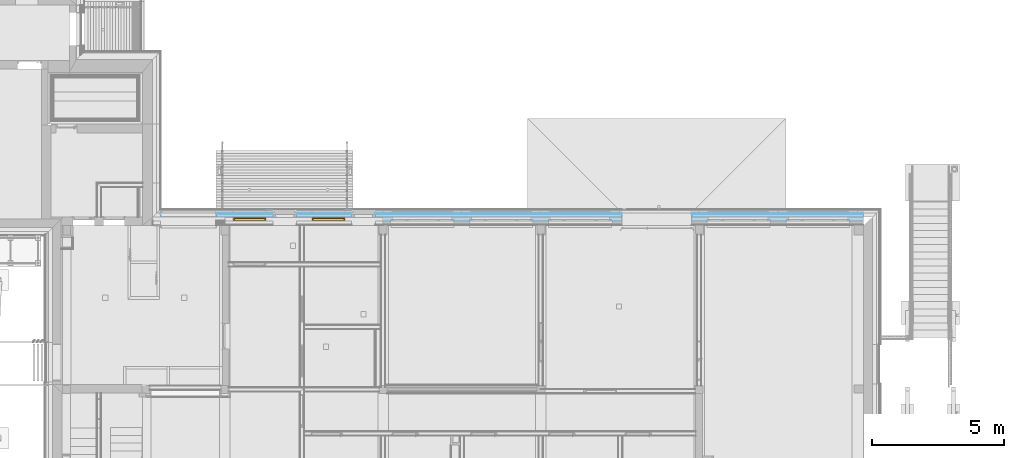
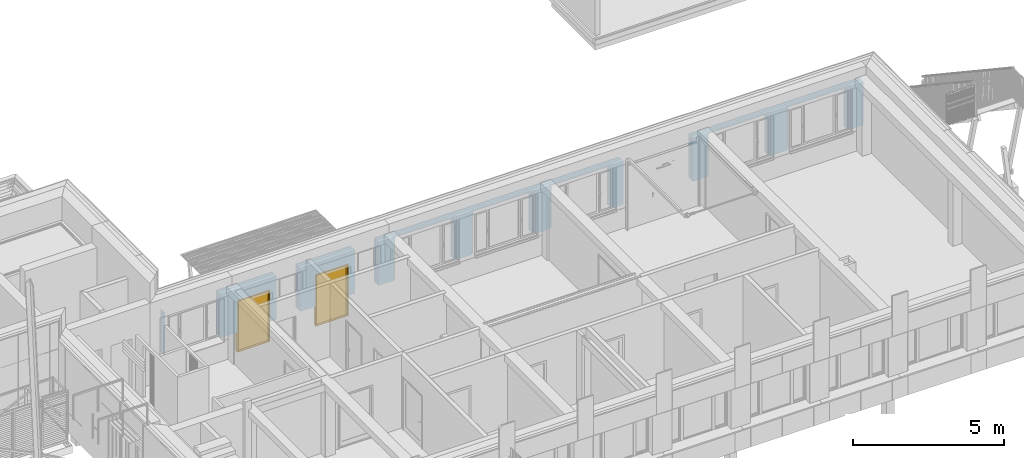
# One storey, part 46 of 418: 2 doors, 16 openings, 1 element without a shape of its own, plus 4 elements that do not belong to this part.
"""IFC2X3 building model written with IfcOpenShell, lengths in millimetres."""

from ifc_helpers import new_model, entity, si_unit, converted_unit, derived_unit, money_unit, direction, frame, origin_with_axes, origin_2d_with_axis, place, context, subcontext, project, spatial, polyline, rectangle, outline, extrude, faceted_brep, source, transform, mapped, material, type_object, element, fill, aggregate, save


model = new_model("IFC2X3")

# Units and contexts
model_context = context("Model", 3, precision=0.01, world=origin_with_axes(), true_north=direction((0.0, 1.0)))
body_context = subcontext(model_context, "Body", "Model", "MODEL_VIEW")
ifc_project = project(units=[si_unit("LENGTHUNIT", "METRE", prefix="MILLI"), si_unit("AREAUNIT", "SQUARE_METRE"), si_unit("VOLUMEUNIT", "CUBIC_METRE"), converted_unit("PLANEANGLEUNIT", "DEGREE", entity("IfcPlaneAngleMeasure", 0.0174532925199), si_unit("PLANEANGLEUNIT", "RADIAN"), dimensions=[0, 0, 0, 0, 0, 0, 0]), si_unit("SOLIDANGLEUNIT", "STERADIAN"), money_unit("EUR"), converted_unit("TIMEUNIT", "Year", entity("IfcTimeMeasure", 31556926.0), si_unit("TIMEUNIT", "SECOND"), dimensions=[0, 0, 1, 0, 0, 0, 0]), si_unit("MASSUNIT", "GRAM", prefix="KILO"), si_unit("THERMODYNAMICTEMPERATUREUNIT", "DEGREE_CELSIUS"), si_unit("LUMINOUSINTENSITYUNIT", "LUMEN"), si_unit("ENERGYUNIT", "JOULE", prefix="MEGA"), derived_unit("THERMALCONDUCTANCEUNIT", [(si_unit("POWERUNIT", "WATT"), 1), (si_unit("LENGTHUNIT", "METRE"), -1), (si_unit("THERMODYNAMICTEMPERATUREUNIT", "KELVIN"), -1)]), derived_unit("SPECIFICHEATCAPACITYUNIT", [(si_unit("ENERGYUNIT", "JOULE"), 1), (si_unit("MASSUNIT", "GRAM", prefix="KILO"), -1), (si_unit("THERMODYNAMICTEMPERATUREUNIT", "KELVIN"), -1)]), derived_unit("MASSDENSITYUNIT", [(si_unit("MASSUNIT", "GRAM", prefix="KILO"), 1), (si_unit("VOLUMEUNIT", "CUBIC_METRE"), -1)])], contexts=[model_context])

# Site, building, storey
site_placement = place(None, origin_with_axes())
site = spatial("IfcSite", under=ifc_project, at=site_placement, Name="Paldiski mnt 245/1, Tallinn, Harjumaa", CompositionType="COMPLEX")
building_placement = place(site_placement, origin_with_axes())
building = spatial("IfcBuilding", under=site, at=building_placement, Name="RKAS Hoone üldnimetus (kasutust iseloomustav) -> IFC Project Manager -> SOLIBRI", CompositionType="ELEMENT")
storey_placement = place(building_placement, origin_with_axes())
storey = spatial("IfcBuildingStorey", under=building, at=storey_placement, Name="Esimene korrus", CompositionType="ELEMENT", Elevation=0.0)

# Door
door_style = type_object("IfcDoorStyle", Name="Door 23", ConstructionType="NOTDEFINED", OperationType="SINGLE_SWING_LEFT", ParameterTakesPrecedence=False, Sizeable=False)
shared_shape = source(origin_with_axes(), body_context, "Body", "Brep", [
    faceted_brep([(-597.0, -40.0, 0.0), (-585.0, -40.0, 0.0), (-585.0, -40.0, 20.0), (-597.0, -40.0, 20.0), (597.0, -40.0, 0.0), (585.0, -40.0, 0.0), (585.0, -115.0, 0.0), (-585.0, -115.0, 0.0), (-585.0, -115.0, 20.0), (585.0, -115.0, 20.0), (585.0, -40.0, 20.0), (597.0, -40.0, 20.0)], [[[0, 1, 2, 3]], [[0, 4, 5, 6, 7, 1]], [[1, 7, 8, 2]], [[3, 2, 8, 9, 10, 11]], [[4, 0, 3, 11]], [[5, 4, 11, 10]], [[6, 5, 10, 9]], [[7, 6, 9, 8]]]),
    faceted_brep([(585.0, -40.0, 0.0), (585.0, -115.0, 0.0), (585.0, -115.0, 2060.0), (585.0, -40.0, 2060.0), (597.0, -40.0, 0.0), (597.0, 0.0, 0.0), (625.0, 0.0, 0.0), (625.0, -115.0, 0.0), (625.0, -115.0, 2060.0), (597.0, -40.0, 2060.0), (625.0, 0.0, 2060.0), (597.0, 0.0, 2060.0)], [[[0, 1, 2, 3]], [[4, 5, 6, 7, 1, 0]], [[1, 7, 8, 2]], [[9, 3, 2, 8, 10, 11]], [[9, 4, 0, 3]], [[11, 5, 4, 9]], [[11, 10, 6, 5]], [[6, 10, 8, 7]]]),
    faceted_brep([(-597.0, -40.0, 2060.0), (-597.0, 0.0, 2060.0), (-625.0, 0.0, 2060.0), (-625.0, -115.0, 2060.0), (-585.0, -115.0, 2060.0), (-585.0, -40.0, 2060.0), (-597.0, -40.0, 0.0), (-597.0, 0.0, 0.0), (-625.0, 0.0, 0.0), (-625.0, -115.0, 0.0), (-585.0, -115.0, 0.0), (-585.0, -40.0, 0.0)], [[[0, 1, 2, 3, 4, 5]], [[0, 6, 7, 1]], [[7, 8, 2, 1]], [[2, 8, 9, 3]], [[3, 9, 10, 4]], [[5, 4, 10, 11]], [[5, 11, 6, 0]], [[6, 11, 10, 9, 8, 7]]]),
    faceted_brep([(597.0, 0.0, 2072.0), (-597.0, 0.0, 2072.0), (-597.0, 0.0, 2060.0), (-625.0, 0.0, 2060.0), (-625.0, 0.0, 2100.0), (625.0, 0.0, 2100.0), (625.0, 0.0, 2060.0), (597.0, 0.0, 2060.0), (597.0, -40.0, 2072.0), (-597.0, -40.0, 2072.0), (-597.0, -40.0, 2060.0), (-585.0, -40.0, 2060.0), (-585.0, -115.0, 2060.0), (-625.0, -115.0, 2060.0), (-625.0, -115.0, 2100.0), (625.0, -115.0, 2100.0), (625.0, -115.0, 2060.0), (597.0, -40.0, 2060.0), (585.0, -115.0, 2060.0), (585.0, -40.0, 2060.0)], [[[0, 1, 2, 3, 4, 5, 6, 7]], [[0, 8, 9, 1]], [[1, 9, 10, 2]], [[10, 11, 12, 13, 3, 2]], [[4, 3, 13, 14]], [[5, 4, 14, 15]], [[6, 5, 15, 16]], [[17, 7, 6, 16, 18, 19]], [[7, 17, 8, 0]], [[10, 9, 8, 17, 19, 11]], [[19, 18, 12, 11]], [[12, 18, 16, 15, 14, 13]]]),
    faceted_brep([(-597.0, 0.0, 0.0), (597.0, 0.0, 0.0), (597.0, -40.0, 0.0), (-597.0, -40.0, 0.0), (-597.0, 0.0, 2072.0), (597.0, 0.0, 2072.0), (597.0, -40.0, 2072.0), (-597.0, -40.0, 2072.0)], [[[0, 1, 2, 3]], [[0, 4, 5, 1]], [[1, 5, 6, 2]], [[3, 2, 6, 7]], [[4, 0, 3, 7]], [[5, 4, 7, 6]]]),
])
wall_placement = place(storey_placement, frame((-17230.0, 70.0000000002, 810.0), z_axis=(0.0, 0.0, 1.0), x_axis=(-1.0, 0.0, 0.0)))
opening_14_placement = place(wall_placement, frame((23270.9798644, -5.44439493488e-10, -810.0), z_axis=(0.0, 0.0, 1.0), x_axis=(1.0, 0.0, 0.0)))
door_1_placement = place(opening_14_placement, frame((625.0, 0.0, 0.0), z_axis=(0.0, 0.0, 1.0), x_axis=(-1.0, 0.0, 0.0)))
door_1 = element("IfcDoor", 1, at=door_1_placement, inside=storey, type_object=door_style, Name="VU-02p", ObjectType="DOOR", OverallHeight=2100.0, OverallWidth=1250.0, context=body_context, shape_type="MappedRepresentation", body=[
    mapped(shared_shape, transform((625.0, 119.999999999, 0.0))),
])

opening_15_placement = place(wall_placement, frame((20280.9798644, -4.74481565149e-10, -810.0), z_axis=(0.0, 0.0, 1.0), x_axis=(1.0, 0.0, 0.0)))
door_2_placement = place(opening_15_placement, frame((625.0, 0.0, 0.0), z_axis=(0.0, 0.0, 1.0), x_axis=(-1.0, 0.0, 0.0)))
door_2 = element("IfcDoor", 2, at=door_2_placement, inside=storey, type_object=door_style, Name="VU-02p", ObjectType="DOOR", OverallHeight=2100.0, OverallWidth=1250.0, context=body_context, shape_type="MappedRepresentation", body=[
    mapped(shared_shape, transform((625.0, 120.0, 0.0))),
])

# Wall, openings
wall_type = type_object("IfcWallType", Name="VS-04_uued_kihid 300", PredefinedType="NOTDEFINED")
wall = element("IfcWall", 3, at=wall_placement, inside=storey, type_object=wall_type, Name="VS-04")
opening_1_placement = place(wall_placement, frame((18955.9798644, -4.43478587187e-10, 0.0), z_axis=(0.0, 0.0, 1.0), x_axis=(1.0, 0.0, 0.0)))
element("IfcOpeningElement", 4, at=opening_1_placement, cuts=wall, Name="A-03", context=body_context, shape_type="SweptSolid", body=[
    extrude(rectangle(XDim=900.0, YDim=1750.0, at=origin_2d_with_axis()), frame((0.0, -230.0, 875.0), z_axis=(0.0, -1.0, 0.0), x_axis=(1.0, 0.0, 0.0)), (0.0, 0.0, -1.0), 530.0),
    extrude(rectangle(XDim=900.0, YDim=1750.0, at=origin_2d_with_axis()), frame((0.0, -230.0, 875.0), z_axis=(0.0, 1.0, 0.0), x_axis=(1.0, 0.0, 0.0)), (0.0, 0.0, -1.0), 370.0),
    extrude(rectangle(XDim=900.0, YDim=1750.0, at=origin_2d_with_axis()), frame((0.0, 4.41299774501e-10, 875.0), z_axis=(0.0, -1.0, 0.0), x_axis=(1.0, 0.0, 0.0)), (0.0, 0.0, -1.0), 370.0),
    extrude(rectangle(XDim=900.0, YDim=1758.0, at=origin_2d_with_axis()), frame((0.0, -300.0, 871.0), z_axis=(0.0, 1.0, 0.0), x_axis=(1.0, 0.0, 0.0)), (0.0, 0.0, -1.0), 370.0),
])
opening_2_placement = place(wall_placement, frame((16719.9798644, -3.91173204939e-10, 0.0), z_axis=(0.0, 0.0, 1.0), x_axis=(1.0, 0.0, 0.0)))
element("IfcOpeningElement", 5, at=opening_2_placement, cuts=wall, Name="A-01.1", context=body_context, shape_type="SweptSolid", body=[
    extrude(rectangle(XDim=2270.0, YDim=1685.0, at=origin_2d_with_axis()), frame((0.0, -49.9999999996, 842.5), z_axis=(0.0, 1.0, 0.0), x_axis=(1.0, 0.0, 0.0)), (0.0, 0.0, -1.0), 550.0),
    extrude(rectangle(XDim=2400.0, YDim=1750.0, at=origin_2d_with_axis()), frame((0.0, -49.9999999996, 875.0), z_axis=(0.0, 1.0, 0.0), x_axis=(1.0, 0.0, 0.0)), (0.0, 0.0, 1.0), 80.0),
    extrude(rectangle(XDim=2400.0, YDim=1750.0, at=origin_2d_with_axis()), frame((0.0, 30.0000000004, 875.0), z_axis=(0.0, -1.0, 0.0), x_axis=(1.0, 0.0, 0.0)), (0.0, 0.0, -1.0), 330.0),
])
opening_3_placement = place(wall_placement, frame((13739.9798644, -3.21451198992e-10, 0.0), z_axis=(0.0, 0.0, 1.0), x_axis=(1.0, 0.0, 0.0)))
element("IfcOpeningElement", 6, at=opening_3_placement, cuts=wall, Name="A-01.1", context=body_context, shape_type="SweptSolid", body=[
    extrude(rectangle(XDim=2270.0, YDim=1685.0, at=origin_2d_with_axis()), frame((0.0, -49.9999999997, 842.5), z_axis=(0.0, 1.0, 0.0), x_axis=(1.0, 0.0, 0.0)), (0.0, 0.0, -1.0), 550.0),
    extrude(rectangle(XDim=2400.0, YDim=1750.0, at=origin_2d_with_axis()), frame((0.0, -49.9999999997, 875.0), z_axis=(0.0, 1.0, 0.0), x_axis=(1.0, 0.0, 0.0)), (0.0, 0.0, 1.0), 80.0),
    extrude(rectangle(XDim=2400.0, YDim=1750.0, at=origin_2d_with_axis()), frame((0.0, 30.0000000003, 875.0), z_axis=(0.0, -1.0, 0.0), x_axis=(1.0, 0.0, 0.0)), (0.0, 0.0, -1.0), 330.0),
])
opening_4_placement = place(wall_placement, frame((10749.9798644, -2.51507148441e-10, 0.0), z_axis=(0.0, 0.0, 1.0), x_axis=(1.0, 0.0, 0.0)))
element("IfcOpeningElement", 7, at=opening_4_placement, cuts=wall, Name="A-01.1", context=body_context, shape_type="SweptSolid", body=[
    extrude(rectangle(XDim=2270.0, YDim=1685.0, at=origin_2d_with_axis()), frame((0.0, -49.9999999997, 842.5), z_axis=(0.0, 1.0, 0.0), x_axis=(1.0, 0.0, 0.0)), (0.0, 0.0, -1.0), 550.0),
    extrude(rectangle(XDim=2400.0, YDim=1750.0, at=origin_2d_with_axis()), frame((0.0, -49.9999999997, 875.0), z_axis=(0.0, 1.0, 0.0), x_axis=(1.0, 0.0, 0.0)), (0.0, 0.0, 1.0), 80.0),
    extrude(rectangle(XDim=2400.0, YDim=1750.0, at=origin_2d_with_axis()), frame((0.0, 30.0000000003, 875.0), z_axis=(0.0, -1.0, 0.0), x_axis=(1.0, 0.0, 0.0)), (0.0, 0.0, -1.0), 330.0),
])
opening_5_placement = place(wall_placement, frame((4739.97986437, -1.10897402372e-10, 0.0), z_axis=(0.0, 0.0, 1.0), x_axis=(1.0, 0.0, 0.0)))
element("IfcOpeningElement", 8, at=opening_5_placement, cuts=wall, Name="A-01.1", context=body_context, shape_type="SweptSolid", body=[
    extrude(rectangle(XDim=2270.0, YDim=1685.0, at=origin_2d_with_axis()), frame((0.0, -49.9999999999, 842.5), z_axis=(0.0, 1.0, 0.0), x_axis=(1.0, 0.0, 0.0)), (0.0, 0.0, -1.0), 550.0),
    extrude(rectangle(XDim=2400.0, YDim=1750.0, at=origin_2d_with_axis()), frame((0.0, -49.9999999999, 875.0), z_axis=(0.0, 1.0, 0.0), x_axis=(1.0, 0.0, 0.0)), (0.0, 0.0, 1.0), 80.0),
    extrude(rectangle(XDim=2400.0, YDim=1750.0, at=origin_2d_with_axis()), frame((0.0, 30.0000000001, 875.0), z_axis=(0.0, -1.0, 0.0), x_axis=(1.0, 0.0, 0.0)), (0.0, 0.0, -1.0), 330.0),
])
opening_6_placement = place(wall_placement, frame((1719.97986437, 0.0, 0.0), z_axis=(0.0, 0.0, 1.0), x_axis=(1.0, 0.0, 0.0)))
element("IfcOpeningElement", 9, at=opening_6_placement, cuts=wall, Name="A-01.1", context=body_context, shape_type="SweptSolid", body=[
    extrude(rectangle(XDim=2270.0, YDim=1685.0, at=origin_2d_with_axis()), frame((0.0, -50.0, 842.5), z_axis=(0.0, 1.0, 0.0), x_axis=(1.0, 0.0, 0.0)), (0.0, 0.0, -1.0), 550.0),
    extrude(rectangle(XDim=2400.0, YDim=1750.0, at=origin_2d_with_axis()), frame((0.0, -50.0, 875.0), z_axis=(0.0, 1.0, 0.0), x_axis=(1.0, 0.0, 0.0)), (0.0, 0.0, 1.0), 80.0),
    extrude(rectangle(XDim=2400.0, YDim=1750.0, at=origin_2d_with_axis()), frame((0.0, 30.0, 875.0), z_axis=(0.0, -1.0, 0.0), x_axis=(1.0, 0.0, 0.0)), (0.0, 0.0, -1.0), 330.0),
])
opening_7_placement = place(wall_placement, frame((25590.4715173, -5.98701643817e-10, 0.0), z_axis=(0.0, 0.0, 1.0), x_axis=(1.0, 0.0, 0.0)))
element("IfcOpeningElement", 10, at=opening_7_placement, cuts=wall, Name="A-04", context=body_context, shape_type="SweptSolid", body=[
    extrude(rectangle(XDim=2119.84238204, YDim=1750.0, at=origin_2d_with_axis()), frame((0.0, -159.999999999, 875.0), z_axis=(0.0, -1.0, 0.0), x_axis=(1.0, 0.0, 0.0)), (0.0, 0.0, -1.0), 460.0),
    extrude(rectangle(XDim=2119.84238204, YDim=1750.0, at=origin_2d_with_axis()), frame((0.0, -159.999999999, 875.0), z_axis=(0.0, 1.0, 0.0), x_axis=(1.0, 0.0, 0.0)), (0.0, 0.0, -1.0), 440.0),
    extrude(rectangle(XDim=2119.84238204, YDim=1750.0, at=origin_2d_with_axis()), frame((0.0, 5.95745675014e-10, 875.0), z_axis=(0.0, -1.0, 0.0), x_axis=(1.0, 0.0, 0.0)), (0.0, 0.0, -1.0), 440.0),
])
opening_8_placement = place(wall_placement, frame((21945.9798644, -5.13436515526e-10, 0.0), z_axis=(0.0, 0.0, 1.0), x_axis=(1.0, 0.0, 0.0)))
element("IfcOpeningElement", 11, at=opening_8_placement, cuts=wall, Name="A-03", context=body_context, shape_type="SweptSolid", body=[
    extrude(rectangle(XDim=900.0, YDim=1750.0, at=origin_2d_with_axis()), frame((0.0, -229.999999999, 875.0), z_axis=(0.0, -1.0, 0.0), x_axis=(1.0, 0.0, 0.0)), (0.0, 0.0, -1.0), 530.0),
    extrude(rectangle(XDim=900.0, YDim=1750.0, at=origin_2d_with_axis()), frame((0.0, -229.999999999, 875.0), z_axis=(0.0, 1.0, 0.0), x_axis=(1.0, 0.0, 0.0)), (0.0, 0.0, -1.0), 370.0),
    extrude(rectangle(XDim=900.0, YDim=1750.0, at=origin_2d_with_axis()), frame((0.0, 5.10924635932e-10, 875.0), z_axis=(0.0, -1.0, 0.0), x_axis=(1.0, 0.0, 0.0)), (0.0, 0.0, -1.0), 370.0),
    extrude(rectangle(XDim=900.0, YDim=1758.0, at=origin_2d_with_axis()), frame((0.0, -299.999999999, 871.0), z_axis=(0.0, 1.0, 0.0), x_axis=(1.0, 0.0, 0.0)), (0.0, 0.0, -1.0), 370.0),
])
opening_9_placement = place(wall_placement, frame((20909.9798644, -4.89192020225e-10, 5.00000019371), z_axis=(0.0, 0.0, 1.0), x_axis=(1.0, 0.0, 0.0)))
element("IfcOpeningElement", 12, at=opening_9_placement, cuts=wall, Name="Cembrit fassaadiplaadi vuuk", context=body_context, shape_type="SweptSolid", body=[
    extrude(outline(polyline([(-4.00000000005, 0.0), (4.00000000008, 0.0), (4.00000000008, 1745.0), (-4.00000000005, 1745.0), (-4.00000000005, 0.0)])), frame((0.0, -292.0, 0.0), z_axis=(0.0, 1.0, 0.0), x_axis=(-1.0, 0.0, 0.0)), (0.0, 0.0, -1.0), 308.0),
])
opening_10_placement = place(wall_placement, frame((19652.1766374, -4.59771110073e-10, 5.00000019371), z_axis=(0.0, 0.0, 1.0), x_axis=(1.0, 0.0, 0.0)))
element("IfcOpeningElement", 13, at=opening_10_placement, cuts=wall, Name="Cembrit fassaadiplaadi vuuk", context=body_context, shape_type="SweptSolid", body=[
    extrude(outline(polyline([(-4.0, 0.0), (4.0, 0.0), (4.0, 1745.0), (-4.0, 1745.0), (-4.0, 0.0)])), frame((0.0, -292.0, 0.0), z_axis=(0.0, 1.0, 0.0), x_axis=(-1.0, 0.0, 0.0)), (0.0, 0.0, -1.0), 308.0),
])
opening_11_placement = place(wall_placement, frame((23899.9798644, -5.59149948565e-10, 5.00000019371), z_axis=(0.0, 0.0, 1.0), x_axis=(1.0, 0.0, 0.0)))
element("IfcOpeningElement", 14, at=opening_11_placement, cuts=wall, Name="Cembrit fassaadiplaadi vuuk", context=body_context, shape_type="SweptSolid", body=[
    extrude(outline(polyline([(-3.99999999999, 0.0), (4.0, 0.0), (4.0, 1745.0), (-3.99999999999, 1745.0), (-3.99999999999, 0.0)])), frame((0.0, -291.999999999, 0.0), z_axis=(0.0, 1.0, 0.0), x_axis=(-1.0, 0.0, 0.0)), (0.0, 0.0, -1.0), 308.0),
])
opening_12_placement = place(wall_placement, frame((22641.9798644, -5.29715160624e-10, 5.00000019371), z_axis=(0.0, 0.0, 1.0), x_axis=(1.0, 0.0, 0.0)))
element("IfcOpeningElement", 15, at=opening_12_placement, cuts=wall, Name="Cembrit fassaadiplaadi vuuk", context=body_context, shape_type="SweptSolid", body=[
    extrude(outline(polyline([(-3.99999999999, 0.0), (4.0, 0.0), (4.0, 1745.0), (-3.99999999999, 1745.0), (-3.99999999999, 0.0)])), frame((0.0, -291.999999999, 0.0), z_axis=(0.0, 1.0, 0.0), x_axis=(-1.0, 0.0, 0.0)), (0.0, 0.0, -1.0), 308.0),
])
opening_13_placement = place(wall_placement, frame((21968.2650953, -5.13963871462e-10, 1290.0), z_axis=(0.0, 0.0, 1.0), x_axis=(1.0, 0.0, 0.0)))
element("IfcOpeningElement", 16, at=opening_13_placement, cuts=wall, Name="Cembrit fassaadiplaadi vuuk", context=body_context, shape_type="SweptSolid", body=[
    extrude(outline(polyline([(-2562.28523097, 0.0), (2562.28523097, 0.0), (2562.28523097, 8.0), (-2562.28523097, 8.0), (-2562.28523097, 0.0)])), frame((0.0, -291.999999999, 0.0), z_axis=(0.0, 1.0, 0.0), x_axis=(-1.0, 0.0, 0.0)), (0.0, 0.0, -1.0), 308.0),
])
opening_14 = element("IfcOpeningElement", 17, at=opening_14_placement, cuts=wall, Name="VU-02p", context=body_context, shape_type="SweptSolid", body=[
    extrude(rectangle(XDim=1250.0, YDim=2100.0, at=origin_2d_with_axis()), frame((0.0, -119.999999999, 1050.0), z_axis=(0.0, -1.0, 0.0), x_axis=(1.0, 0.0, 0.0)), (0.0, 0.0, 1.0), 480.0),
    extrude(rectangle(XDim=1250.0, YDim=2100.0, at=origin_2d_with_axis()), frame((0.0, -119.999999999, 1050.0), z_axis=(0.0, 1.0, 0.0), x_axis=(1.0, 0.0, 0.0)), (0.0, 0.0, 1.0), 420.0),
])

fill(opening_14, door_1)

# Opening
opening_15 = element("IfcOpeningElement", 18, at=opening_15_placement, cuts=wall, Name="VU-02p", context=body_context, shape_type="SweptSolid", body=[
    extrude(rectangle(XDim=1250.0, YDim=2100.0, at=origin_2d_with_axis()), frame((0.0, -120.0, 1050.0), z_axis=(0.0, -1.0, 0.0), x_axis=(1.0, 0.0, 0.0)), (0.0, 0.0, 1.0), 480.0),
    extrude(rectangle(XDim=1250.0, YDim=2100.0, at=origin_2d_with_axis()), frame((0.0, -120.0, 1050.0), z_axis=(0.0, 1.0, 0.0), x_axis=(1.0, 0.0, 0.0)), (0.0, 0.0, 1.0), 420.0),
])

fill(opening_15, door_2)

opening_16_placement = place(wall_placement, frame((7834.97986437, -1.83297821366e-10, -810.0), z_axis=(0.0, 0.0, 1.0), x_axis=(1.0, 0.0, 0.0)))
element("IfcOpeningElement", 19, at=opening_16_placement, cuts=wall, Name="VU-07", context=body_context, shape_type="SweptSolid", body=[
    extrude(rectangle(XDim=2650.0, YDim=2560.0, at=origin_2d_with_axis()), frame((0.0, 250.0, 1280.0), z_axis=(0.0, -1.0, 0.0), x_axis=(1.0, 0.0, 0.0)), (0.0, 0.0, -1.0), 550.0),
    extrude(rectangle(XDim=2650.0, YDim=2560.0, at=origin_2d_with_axis()), frame((0.0, 250.0, 1280.0), z_axis=(0.0, 1.0, 0.0), x_axis=(1.0, 0.0, 0.0)), (0.0, 0.0, -1.0), 550.0),
])

# Building element part
ifc_material_1 = material(Name="Cembrit_C060")
building_element_part_1_placement = place(wall_placement, origin_with_axes())
building_element_part_1 = element("IfcBuildingElementPart", 20, at=building_element_part_1_placement, material=ifc_material_1, Name="Cembrit_C060", context=body_context, shape_type="SweptSolid", body=[
    extrude(outline(polyline([(0.0, -300.0), (26650.530323, -300.0), (26650.530323, -292.0), (0.0, -292.0), (0.0, -300.0)])), origin_with_axes(), (0.0, 0.0, 1.0), 1750.0),
])

ifc_material_2 = material(Name="VKR-06_Õhkvahe")
building_element_part_2_placement = place(wall_placement, origin_with_axes())
building_element_part_2 = element("IfcBuildingElementPart", 21, at=building_element_part_2_placement, material=ifc_material_2, Name="VKR-06_Õhkvahe", context=body_context, shape_type="SweptSolid", body=[
    extrude(outline(polyline([(0.0, -292.0), (26650.530323, -292.0), (26650.530323, -250.0), (0.0, -250.0), (0.0, -292.0)])), origin_with_axes(), (0.0, 0.0, 1.0), 1750.0),
])

ifc_material_3 = material(Name="Kingspan Kooltherm")
building_element_part_3_placement = place(wall_placement, origin_with_axes())
building_element_part_3 = element("IfcBuildingElementPart", 22, at=building_element_part_3_placement, material=ifc_material_3, Name="Kingspan Kooltherm", context=body_context, shape_type="SweptSolid", body=[
    extrude(outline(polyline([(0.0, -250.0), (26650.530323, -250.0), (26650.530323, -150.0), (0.0, -150.0), (0.0, -250.0)])), origin_with_axes(), (0.0, 0.0, 1.0), 1750.0),
])

building_element_part_4_placement = place(wall_placement, origin_with_axes())
building_element_part_4 = element("IfcBuildingElementPart", 23, at=building_element_part_4_placement, material=ifc_material_3, Name="Kingspan Kooltherm", context=body_context, shape_type="SweptSolid", body=[
    extrude(outline(polyline([(0.0, -150.0), (26650.530323, -150.0), (26650.530323, 0.0), (0.0, 0.0), (0.0, -150.0)])), origin_with_axes(), (0.0, 0.0, 1.0), 1750.0),
])

aggregate(wall, [building_element_part_1, building_element_part_2, building_element_part_3, building_element_part_4])

save(model, "model.ifc")
